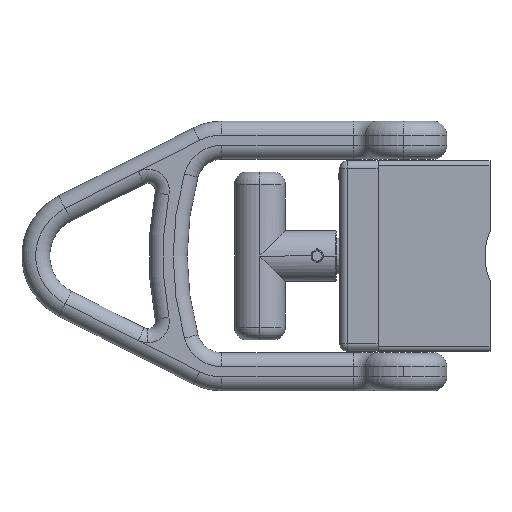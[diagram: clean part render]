
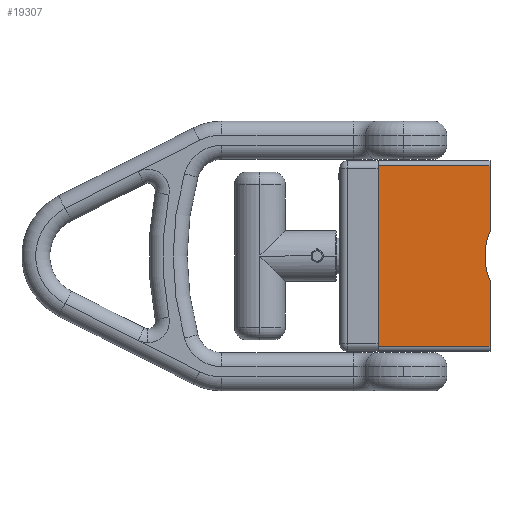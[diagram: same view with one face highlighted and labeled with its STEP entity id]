
A CAD part, left-side view. The second image highlights one B-rep face of the part: STEP entity #19307.
In plain terms, the highlighted planar face has unit normal (-1, 0, 0).
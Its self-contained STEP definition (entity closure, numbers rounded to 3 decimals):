
#553 = ORIENTED_EDGE ( 'NONE', *, *, #13751, .F. ) ;
#777 = ORIENTED_EDGE ( 'NONE', *, *, #26929, .T. ) ;
#3025 = CARTESIAN_POINT ( 'NONE',  ( -9.713, -46.447, -8.763 ) ) ;
#3183 = DIRECTION ( 'NONE',  ( 1., 0., 0. ) ) ;
#3789 = FACE_OUTER_BOUND ( 'NONE', #30411, .T. ) ;
#4410 = LINE ( 'NONE', #15665, #38326 ) ;
#4903 = CARTESIAN_POINT ( 'NONE',  ( -9.713, -23.447, 28.737 ) ) ;
#5984 = LINE ( 'NONE', #17152, #13639 ) ;
#6317 = DIRECTION ( 'NONE',  ( 0., 0., -1. ) ) ;
#6467 = LINE ( 'NONE', #37480, #22884 ) ;
#7232 = DIRECTION ( 'NONE',  ( 0., 1., 0. ) ) ;
#7891 = DIRECTION ( 'NONE',  ( 0., 0., 1. ) ) ;
#9393 = CARTESIAN_POINT ( 'NONE',  ( -9.713, 20.553, -44.263 ) ) ;
#9607 = PLANE ( 'NONE',  #29725 ) ;
#9995 = VERTEX_POINT ( 'NONE', #29294 ) ;
#13219 = ORIENTED_EDGE ( 'NONE', *, *, #30412, .F. ) ;
#13432 = CARTESIAN_POINT ( 'NONE',  ( -9.713, -23.447, 26.737 ) ) ;
#13559 = CIRCLE ( 'NONE', #22355, 25. ) ;
#13639 = VECTOR ( 'NONE', #7232, 1000. ) ;
#13751 = EDGE_CURVE ( 'NONE', #9995, #16343, #13559, .T. ) ;
#15665 = CARTESIAN_POINT ( 'NONE',  ( -9.713, -23.447, -18.56 ) ) ;
#16343 = VERTEX_POINT ( 'NONE', #17428 ) ;
#16631 = CARTESIAN_POINT ( 'NONE',  ( -9.713, -46.447, -44.263 ) ) ;
#16760 = VECTOR ( 'NONE', #35350, 1000. ) ;
#16768 = DIRECTION ( 'NONE',  ( 0., -1., 0. ) ) ;
#17131 = EDGE_CURVE ( 'NONE', #30902, #41798, #41496, .T. ) ;
#17152 = CARTESIAN_POINT ( 'NONE',  ( -9.713, -46.447, 26.737 ) ) ;
#17428 = CARTESIAN_POINT ( 'NONE',  ( -9.713, -23.447, -18.56 ) ) ;
#17800 = EDGE_CURVE ( 'NONE', #34719, #9995, #26498, .T. ) ;
#19307 = ADVANCED_FACE ( 'NONE', ( #3789 ), #9607, .F. ) ;
#22239 = DIRECTION ( 'NONE',  ( 0., 0., -1. ) ) ;
#22318 = ORIENTED_EDGE ( 'NONE', *, *, #17800, .F. ) ;
#22355 = AXIS2_PLACEMENT_3D ( 'NONE', #3025, #25986, #6317 ) ;
#22847 = CARTESIAN_POINT ( 'NONE',  ( -9.713, -46.447, -8.763 ) ) ;
#22884 = VECTOR ( 'NONE', #7891, 1000. ) ;
#23567 = CARTESIAN_POINT ( 'NONE',  ( -9.713, -23.447, -44.263 ) ) ;
#24025 = VECTOR ( 'NONE', #16768, 1000. ) ;
#24325 = ORIENTED_EDGE ( 'NONE', *, *, #36003, .F. ) ;
#25413 = CARTESIAN_POINT ( 'NONE',  ( -9.713, 20.553, 26.737 ) ) ;
#25986 = DIRECTION ( 'NONE',  ( -1., 0., 0. ) ) ;
#26149 = DIRECTION ( 'NONE',  ( 0., 0., -1. ) ) ;
#26489 = ORIENTED_EDGE ( 'NONE', *, *, #17131, .T. ) ;
#26498 = LINE ( 'NONE', #4903, #16760 ) ;
#26929 = EDGE_CURVE ( 'NONE', #34719, #27635, #5984, .T. ) ;
#27635 = VERTEX_POINT ( 'NONE', #25413 ) ;
#29294 = CARTESIAN_POINT ( 'NONE',  ( -9.713, -23.447, 1.035 ) ) ;
#29725 = AXIS2_PLACEMENT_3D ( 'NONE', #22847, #3183, #26149 ) ;
#30411 = EDGE_LOOP ( 'NONE', ( #24325, #26489, #13219, #553, #22318, #777 ) ) ;
#30412 = EDGE_CURVE ( 'NONE', #16343, #41798, #4410, .T. ) ;
#30902 = VERTEX_POINT ( 'NONE', #9393 ) ;
#34719 = VERTEX_POINT ( 'NONE', #13432 ) ;
#35350 = DIRECTION ( 'NONE',  ( 0., 0., -1. ) ) ;
#36003 = EDGE_CURVE ( 'NONE', #30902, #27635, #6467, .T. ) ;
#37480 = CARTESIAN_POINT ( 'NONE',  ( -9.713, 20.553, 28.737 ) ) ;
#38326 = VECTOR ( 'NONE', #22239, 1000. ) ;
#41496 = LINE ( 'NONE', #16631, #24025 ) ;
#41798 = VERTEX_POINT ( 'NONE', #23567 ) ;
